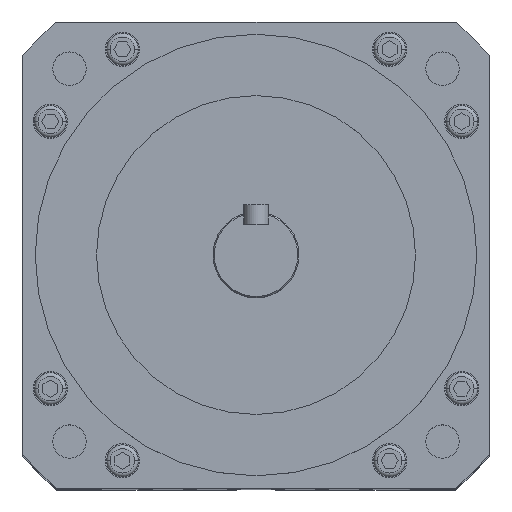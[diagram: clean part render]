
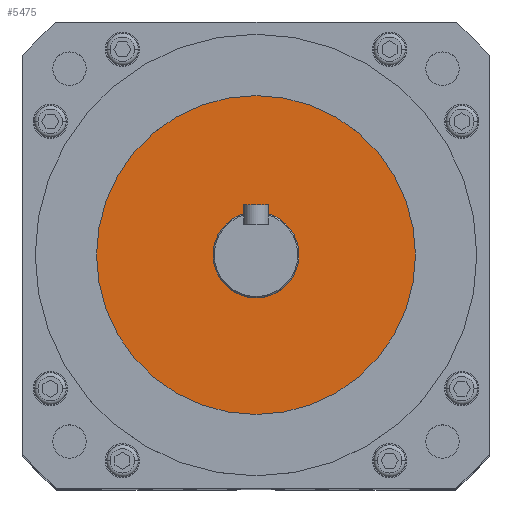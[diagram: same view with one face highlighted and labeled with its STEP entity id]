
A CAD part, top view. The second image highlights one B-rep face of the part: STEP entity #5475.
In plain terms, the highlighted planar face has unit normal (0, 0, 1).
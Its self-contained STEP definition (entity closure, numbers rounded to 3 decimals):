
#899 = ORIENTED_EDGE ( 'NONE', *, *, #5865, .F. ) ;
#1457 = EDGE_CURVE ( 'NONE', #12905, #13478, #12586, .T. ) ;
#1837 = DIRECTION ( 'NONE',  ( 0., 0., 1. ) ) ;
#1968 = ORIENTED_EDGE ( 'NONE', *, *, #6290, .T. ) ;
#2001 = DIRECTION ( 'NONE',  ( 0., 0., 1. ) ) ;
#2636 = CARTESIAN_POINT ( 'NONE',  ( -17.5, 0., 394. ) ) ;
#2939 = FACE_BOUND ( 'NONE', #12789, .T. ) ;
#3123 = CARTESIAN_POINT ( 'NONE',  ( 0., 0., 394. ) ) ;
#3356 = DIRECTION ( 'NONE',  ( 1., 0., 0. ) ) ;
#4149 = CARTESIAN_POINT ( 'NONE',  ( 0., 0., 394. ) ) ;
#4347 = DIRECTION ( 'NONE',  ( 1., 0., 0. ) ) ;
#4576 = CARTESIAN_POINT ( 'NONE',  ( 0., 0., 394. ) ) ;
#4863 = AXIS2_PLACEMENT_3D ( 'NONE', #4576, #2001, #4347 ) ;
#5110 = CARTESIAN_POINT ( 'NONE',  ( 65., 0., 394. ) ) ;
#5145 = DIRECTION ( 'NONE',  ( 0., 0., 1. ) ) ;
#5475 = ADVANCED_FACE ( 'NONE', ( #2939, #10928 ), #7570, .T. ) ;
#5696 = EDGE_LOOP ( 'NONE', ( #1968, #8420 ) ) ;
#5865 = EDGE_CURVE ( 'NONE', #13478, #12905, #8934, .T. ) ;
#6052 = AXIS2_PLACEMENT_3D ( 'NONE', #4149, #5145, #14412 ) ;
#6290 = EDGE_CURVE ( 'NONE', #11530, #10014, #7118, .T. ) ;
#6473 = CARTESIAN_POINT ( 'NONE',  ( 17.5, 0., 394. ) ) ;
#6599 = DIRECTION ( 'NONE',  ( 1., 0., 0. ) ) ;
#7118 = CIRCLE ( 'NONE', #9798, 65. ) ;
#7570 = PLANE ( 'NONE',  #6052 ) ;
#7618 = ORIENTED_EDGE ( 'NONE', *, *, #1457, .F. ) ;
#8420 = ORIENTED_EDGE ( 'NONE', *, *, #9972, .T. ) ;
#8886 = CARTESIAN_POINT ( 'NONE',  ( 0., 0., 394. ) ) ;
#8934 = CIRCLE ( 'NONE', #10157, 17.5 ) ;
#9798 = AXIS2_PLACEMENT_3D ( 'NONE', #8886, #13518, #6599 ) ;
#9972 = EDGE_CURVE ( 'NONE', #10014, #11530, #13128, .T. ) ;
#10014 = VERTEX_POINT ( 'NONE', #11506 ) ;
#10157 = AXIS2_PLACEMENT_3D ( 'NONE', #3123, #1837, #11263 ) ;
#10928 = FACE_OUTER_BOUND ( 'NONE', #5696, .T. ) ;
#11193 = DIRECTION ( 'NONE',  ( 0., 0., 1. ) ) ;
#11263 = DIRECTION ( 'NONE',  ( 1., 0., 0. ) ) ;
#11506 = CARTESIAN_POINT ( 'NONE',  ( -65., 0., 394. ) ) ;
#11530 = VERTEX_POINT ( 'NONE', #5110 ) ;
#12586 = CIRCLE ( 'NONE', #14752, 17.5 ) ;
#12789 = EDGE_LOOP ( 'NONE', ( #7618, #899 ) ) ;
#12905 = VERTEX_POINT ( 'NONE', #2636 ) ;
#13128 = CIRCLE ( 'NONE', #4863, 65. ) ;
#13478 = VERTEX_POINT ( 'NONE', #6473 ) ;
#13518 = DIRECTION ( 'NONE',  ( 0., 0., 1. ) ) ;
#14412 = DIRECTION ( 'NONE',  ( 1., 0., 0. ) ) ;
#14752 = AXIS2_PLACEMENT_3D ( 'NONE', #14896, #11193, #3356 ) ;
#14896 = CARTESIAN_POINT ( 'NONE',  ( 0., 0., 394. ) ) ;
